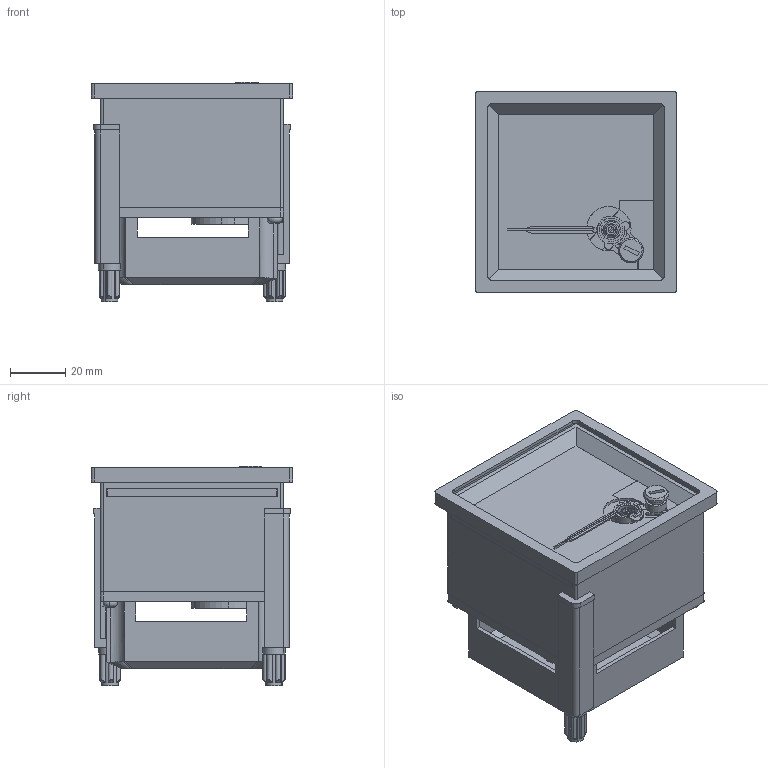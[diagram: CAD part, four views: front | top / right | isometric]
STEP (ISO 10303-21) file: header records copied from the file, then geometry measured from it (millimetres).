
FILE_DESCRIPTION (( 'STEP AP203' ), '1' );
FILE_NAME ('AMP-771 ASTER.STEP', '2019-12-02T21:07:54', ( '' ), ( '' ), 'SwSTEP 2.0', 'SolidWorks 2017', '' );
FILE_SCHEMA (( 'CONFIG_CONTROL_DESIGN' ));
Length unit declared in the file: millimetre
Products named in the file (1): AMP-771 ASTER
Bounding box: 72.5 x 72.5 x 79.28 mm (x, y, z)
Surface area: 51090 mm2 (no closed solid volume)
Topology: 0 solids, 16 shells, 494 faces, 1803 edges, 1300 vertices
Faces by surface type: plane 296, cylinder 149, cone 24, bspline 17, torus 8
Entity records: 21054 total; most frequent: CARTESIAN_POINT 6259, DIRECTION 2885, ORIENTED_EDGE 2854, EDGE_CURVE 1803, VERTEX_POINT 1300, LINE 1139, VECTOR 1139, AXIS2_PLACEMENT_3D 873
